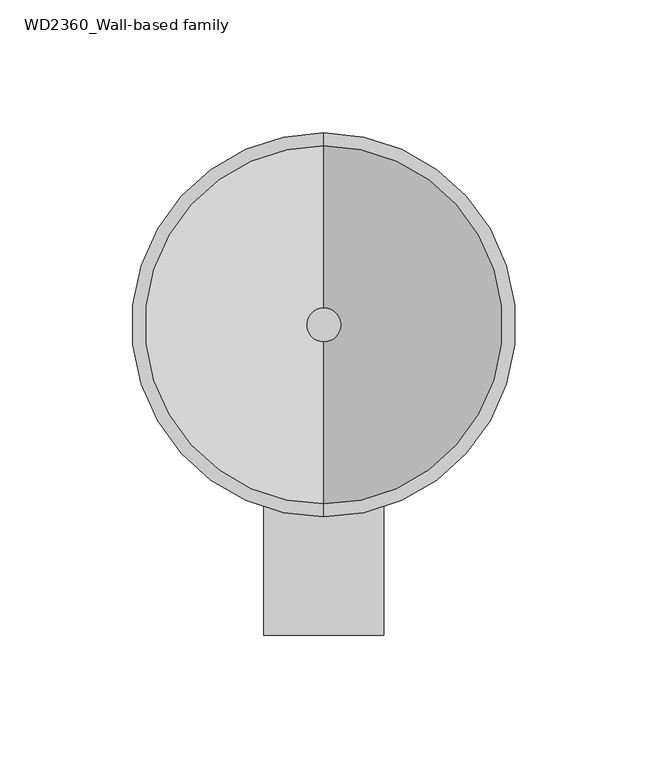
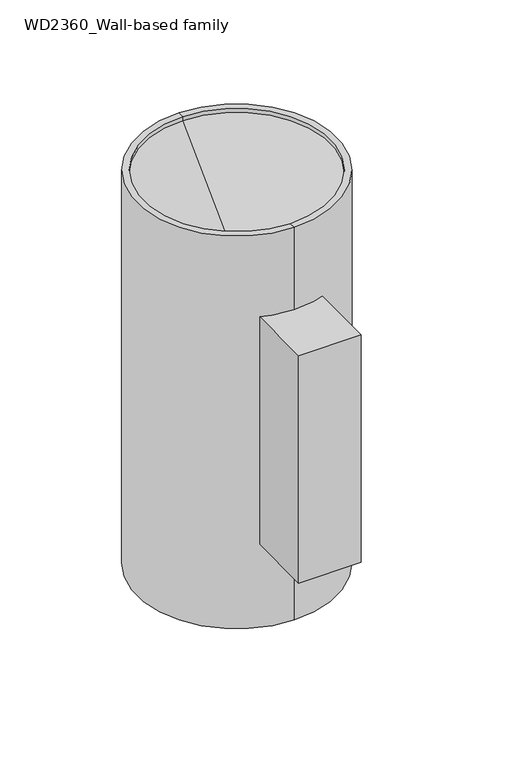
"""IFC4 building model written with IfcOpenShell, lengths in millimetres: light fixture geometry."""

from ifc_helpers import new_model, si_unit, point, frame, frame_2d, origin, origin_with_axes, place, context, project, spatial, polyline, circle_curve, trimmed, segment, composite_curve, outline, extrude, source, transform, mapped, element, save
from ifc_brep_helpers import plane_surface, cylinder_surface, revolved_surface, advanced_brep


def wd2360_wall_based_family_640fc546(model_context):
    return source(origin(), model_context, "Body", "SolidModel", [
        advanced_brep(
        [(125.0, 211.93125, 236.9386318), (125.0, 224.63125, 236.9386318), (125.0, 218.28125, 236.9386318), (125.0, 218.28125, 236.1028185), (125.0, 225.0700223, 236.1028185), (125.0, 211.4924777, 236.1028185), (125.0, 285.6831509, 295.4250706), (125.0, 150.8793491, 295.4250706), (125.0, 285.6831509, 297.0353933), (125.0, 150.8793491, 297.0353933)],
        [
            (0, 1, circle_curve(frame((125.0, 218.28125, 236.9386318), z_axis=(0.0, 0.0, 1.0), x_axis=(0.0, 1.0, 0.0)), 6.35)),
            (1, 2),
            (2, 0),
            (1, 0, circle_curve(frame((125.0, 218.28125, 236.9386318), z_axis=(0.0, 0.0, 1.0), x_axis=(0.0, 1.0, 0.0)), 6.35)),
            (3, 4),
            (4, 5, circle_curve(frame((125.0, 218.28125, 236.1028185), z_axis=(0.0, 0.0, -1.0), x_axis=(0.0, 1.0, 0.0)), 6.7887723)),
            (5, 3),
            (5, 4, circle_curve(frame((125.0, 218.28125, 236.1028185), z_axis=(0.0, 0.0, -1.0), x_axis=(0.0, 1.0, 0.0)), 6.7887723)),
            (4, 6),
            (6, 7, circle_curve(frame((125.0, 218.28125, 295.4250706), z_axis=(0.0, 0.0, -1.0), x_axis=(0.0, 1.0, 0.0)), 67.4019009)),
            (7, 5),
            (7, 6, circle_curve(frame((125.0, 218.28125, 295.4250706), z_axis=(0.0, 0.0, -1.0), x_axis=(0.0, 1.0, 0.0)), 67.4019009)),
            (6, 8),
            (8, 9, circle_curve(frame((125.0, 218.28125, 297.0353933), z_axis=(0.0, 0.0, -1.0), x_axis=(0.0, 1.0, 0.0)), 67.4019009)),
            (9, 7),
            (9, 8, circle_curve(frame((125.0, 218.28125, 297.0353933), z_axis=(0.0, 0.0, -1.0), x_axis=(0.0, 1.0, 0.0)), 67.4019009)),
            (8, 1),
            (0, 9),
        ],
        [
            plane_surface(frame((125.0, 218.28125, 236.9386318), z_axis=(0.0, 0.0, 1.0), x_axis=(0.0, 1.0, 0.0))),
            plane_surface(frame((125.0, 218.28125, 236.1028185), z_axis=(0.0, 0.0, -1.0), x_axis=(0.0, 1.0, 0.0))),
            revolved_surface(polyline([(125.0, 285.6831509, 295.4250706), (125.0, 225.0700223, 236.1028185)]), (125.0, 218.28125, 167.4954411), (0.0, 0.0, -1.0)),
            cylinder_surface(frame((125.0, 218.28125, 167.4954411), z_axis=(0.0, 0.0, -1.0), x_axis=(0.0, 1.0, 0.0)), 67.4019009),
            revolved_surface(polyline([(125.0, 224.63125, 236.9386318), (125.0, 285.6831509, 297.0353933)]), (125.0, 218.28125, 167.4954411), (0.0, 0.0, -1.0)),
        ],
        [
            (0, [[1, 2, 3]]),
            (0, [[4, -3, -2]]),
            (1, [[5, 6, 7]]),
            (1, [[-7, 8, -5]]),
            (2, [[-6, 9, 10, 11]]),
            (2, [[-8, -11, 12, -9]]),
            (3, [[-10, 13, 14, 15]]),
            (3, [[-12, -15, 16, -13]]),
            (4, [[-14, 17, -1, 18]]),
            (4, [[-16, -18, -4, -17]]),
        ],
    ),
        extrude(outline(composite_curve([segment(trimmed(circle_curve(frame_2d((125.0, 218.28125)), 6.35), [point((125.0, 211.93125))], [point((125.0, 224.63125))], False, "CARTESIAN"), True, "CONTINUOUS"), segment(trimmed(circle_curve(frame_2d((125.0, 218.28125)), 6.35), [point((125.0, 224.63125))], [point((125.0, 211.93125))], False, "CARTESIAN"), True, "CONTINUOUS")], self_intersect=False)), frame((0.0, 0.0, 236.9386318), z_axis=(0.0, 0.0, 1.0), x_axis=(1.0, 0.0, 0.0)), (0.0, 0.0, 1.0), 9.6578657),
        advanced_brep(
        [(125.0, 218.28125, 63.0988682), (125.0, 224.63125, 63.0988682), (125.0, 211.93125, 63.0988682), (125.0, 211.4924777, 63.9346815), (125.0, 225.0700223, 63.9346815), (125.0, 218.28125, 63.9346815), (125.0, 150.8793491, 4.6124294), (125.0, 285.6831509, 4.6124294), (125.0, 150.8793491, 3.0021067), (125.0, 285.6831509, 3.0021067)],
        [
            (0, 1),
            (1, 2, circle_curve(frame((125.0, 218.28125, 63.0988682), z_axis=(0.0, 0.0, -1.0), x_axis=(0.0, 1.0, 0.0)), 6.35)),
            (2, 0),
            (2, 1, circle_curve(frame((125.0, 218.28125, 63.0988682), z_axis=(0.0, 0.0, -1.0), x_axis=(0.0, 1.0, 0.0)), 6.35)),
            (3, 4, circle_curve(frame((125.0, 218.28125, 63.9346815), z_axis=(0.0, 0.0, 1.0), x_axis=(0.0, 1.0, 0.0)), 6.7887723)),
            (4, 5),
            (5, 3),
            (4, 3, circle_curve(frame((125.0, 218.28125, 63.9346815), z_axis=(0.0, 0.0, 1.0), x_axis=(0.0, 1.0, 0.0)), 6.7887723)),
            (6, 7, circle_curve(frame((125.0, 218.28125, 4.6124294), z_axis=(0.0, 0.0, 1.0), x_axis=(0.0, 1.0, 0.0)), 67.4019009)),
            (7, 4),
            (3, 6),
            (7, 6, circle_curve(frame((125.0, 218.28125, 4.6124294), z_axis=(0.0, 0.0, 1.0), x_axis=(0.0, 1.0, 0.0)), 67.4019009)),
            (8, 9, circle_curve(frame((125.0, 218.28125, 3.0021067), z_axis=(0.0, 0.0, 1.0), x_axis=(0.0, 1.0, 0.0)), 67.4019009)),
            (9, 7),
            (6, 8),
            (9, 8, circle_curve(frame((125.0, 218.28125, 3.0021067), z_axis=(0.0, 0.0, 1.0), x_axis=(0.0, 1.0, 0.0)), 67.4019009)),
            (1, 9),
            (8, 2),
        ],
        [
            plane_surface(frame((125.0, 218.28125, 63.0988682), z_axis=(0.0, 0.0, -1.0), x_axis=(0.0, 1.0, 0.0))),
            plane_surface(frame((125.0, 218.28125, 63.9346815), z_axis=(0.0, 0.0, 1.0), x_axis=(0.0, 1.0, 0.0))),
            revolved_surface(polyline([(125.0, 225.0700223, 63.9346815), (125.0, 285.6831509, 4.6124294)]), (125.0, 218.28125, 132.5420589), (0.0, 0.0, -1.0)),
            cylinder_surface(frame((125.0, 218.28125, 132.5420589), z_axis=(0.0, 0.0, -1.0), x_axis=(0.0, 1.0, 0.0)), 67.4019009),
            revolved_surface(polyline([(125.0, 285.6831509, 3.0021067), (125.0, 224.63125, 63.0988682)]), (125.0, 218.28125, 132.5420589), (0.0, 0.0, -1.0)),
        ],
        [
            (0, [[1, 2, 3]]),
            (0, [[-3, 4, -1]]),
            (1, [[5, 6, 7]]),
            (1, [[8, -7, -6]]),
            (2, [[9, 10, -5, 11]]),
            (2, [[12, -11, -8, -10]]),
            (3, [[13, 14, -9, 15]]),
            (3, [[16, -15, -12, -14]]),
            (4, [[-2, 17, -13, 18]]),
            (4, [[-4, -18, -16, -17]]),
        ],
    ),
        extrude(outline(composite_curve([segment(trimmed(circle_curve(frame_2d((125.0, 218.28125)), 6.35), [point((131.35, 218.28125))], [point((118.65, 218.28125))], False, "CARTESIAN"), True, "CONTINUOUS"), segment(trimmed(circle_curve(frame_2d((125.0, 218.28125)), 6.35), [point((118.65, 218.28125))], [point((131.35, 218.28125))], False, "CARTESIAN"), True, "CONTINUOUS")], self_intersect=False)), frame((0.0, 0.0, 53.4410025), z_axis=(0.0, 0.0, 1.0), x_axis=(1.0, 0.0, 0.0)), (0.0, 0.0, 1.0), 9.6578657),
        extrude(outline(composite_curve([segment(trimmed(circle_curve(frame_2d((125.0, 218.28125)), 40.3958045), [point((165.3958045, 218.28125))], [point((84.6041955, 218.28125))], False, "CARTESIAN"), True, "CONTINUOUS"), segment(trimmed(circle_curve(frame_2d((125.0, 218.28125)), 40.3958045), [point((84.6041955, 218.28125))], [point((165.3958045, 218.28125))], False, "CARTESIAN"), True, "CONTINUOUS")], self_intersect=False)), origin_with_axes(), (0.0, 0.0, 1.0), 3.0021067),
        extrude(outline(composite_curve([segment(polyline([(102.4035428, 101.6), (102.4035428, 152.0997194)]), True, "CONTINUOUS"), segment(trimmed(circle_curve(frame_2d((125.0, 218.28125)), 69.9327882), [point((102.4035428, 152.0997194))], [point((147.5964572, 152.0997194))], True, "CARTESIAN"), True, "CONTINUOUS"), segment(polyline([(147.5964572, 152.0997194), (147.5964572, 101.6), (102.4035428, 101.6)]), True, "CONTINUOUS")], self_intersect=False)), frame((0.0, 0.0, 63.0988682), z_axis=(0.0, 0.0, 1.0), x_axis=(1.0, 0.0, 0.0)), (0.0, 0.0, 1.0), 173.8397637),
        advanced_brep(
        [(125.0, 150.8793491, 128.0907374), (125.0, 285.6831509, 128.0907374), (125.0, 285.6831509, 0.0), (125.0, 150.8793491, 0.0), (125.0, 218.28125, 128.0907374), (125.0, 146.05, 0.0), (125.0, 290.5125, 0.0), (125.0, 290.5125, 300.0375), (125.0, 146.05, 300.0375), (125.0, 150.8793491, 171.9467626), (125.0, 285.6831509, 171.9467626), (125.0, 218.28125, 171.9467626), (125.0, 150.8793491, 300.0375), (125.0, 285.6831509, 300.0375)],
        [
            (0, 1, circle_curve(frame((125.0, 218.28125, 128.0907374), z_axis=(0.0, 0.0, 1.0), x_axis=(0.0, 1.0, 0.0)), 67.4019009)),
            (1, 2),
            (2, 3, circle_curve(frame((125.0, 218.28125, 0.0), z_axis=(0.0, 0.0, -1.0), x_axis=(0.0, 1.0, 0.0)), 67.4019009)),
            (3, 0),
            (1, 0, circle_curve(frame((125.0, 218.28125, 128.0907374), z_axis=(0.0, 0.0, 1.0), x_axis=(0.0, 1.0, 0.0)), 67.4019009)),
            (3, 2, circle_curve(frame((125.0, 218.28125, 0.0), z_axis=(0.0, 0.0, -1.0), x_axis=(0.0, 1.0, 0.0)), 67.4019009)),
            (4, 1),
            (0, 4),
            (5, 6, circle_curve(frame((125.0, 218.28125, 0.0), z_axis=(0.0, 0.0, 1.0), x_axis=(0.0, 1.0, 0.0)), 72.23125)),
            (6, 7),
            (7, 8, circle_curve(frame((125.0, 218.28125, 300.0375), z_axis=(0.0, 0.0, -1.0), x_axis=(0.0, 1.0, 0.0)), 72.23125)),
            (8, 5),
            (6, 5, circle_curve(frame((125.0, 218.28125, 0.0), z_axis=(0.0, 0.0, 1.0), x_axis=(0.0, 1.0, 0.0)), 72.23125)),
            (8, 7, circle_curve(frame((125.0, 218.28125, 300.0375), z_axis=(0.0, 0.0, -1.0), x_axis=(0.0, 1.0, 0.0)), 72.23125)),
            (2, 6),
            (5, 3),
            (9, 10, circle_curve(frame((125.0, 218.28125, 171.9467626), z_axis=(0.0, 0.0, 1.0), x_axis=(0.0, 1.0, 0.0)), 67.4019009)),
            (10, 11),
            (11, 9),
            (10, 9, circle_curve(frame((125.0, 218.28125, 171.9467626), z_axis=(0.0, 0.0, 1.0), x_axis=(0.0, 1.0, 0.0)), 67.4019009)),
            (12, 13, circle_curve(frame((125.0, 218.28125, 300.0375), z_axis=(0.0, 0.0, 1.0), x_axis=(0.0, 1.0, 0.0)), 67.4019009)),
            (13, 10),
            (9, 12),
            (13, 12, circle_curve(frame((125.0, 218.28125, 300.0375), z_axis=(0.0, 0.0, 1.0), x_axis=(0.0, 1.0, 0.0)), 67.4019009)),
            (7, 13),
            (12, 8),
        ],
        [
            revolved_surface(polyline([(125.0, 285.6831509, 0.0), (125.0, 285.6831509, 128.0907374)]), (125.0, 218.28125, 171.9467626), (0.0, 0.0, -1.0)),
            plane_surface(frame((125.0, 218.28125, 128.0907374), z_axis=(0.0, 0.0, -1.0), x_axis=(0.0, 1.0, 0.0))),
            cylinder_surface(frame((125.0, 218.28125, 171.9467626), z_axis=(0.0, 0.0, -1.0), x_axis=(0.0, 1.0, 0.0)), 72.23125),
            plane_surface(frame((125.0, 218.28125, 0.0), z_axis=(0.0, 0.0, -1.0), x_axis=(0.0, 1.0, 0.0))),
            plane_surface(frame((125.0, 218.28125, 171.9467626), z_axis=(0.0, 0.0, 1.0), x_axis=(0.0, 1.0, 0.0))),
            revolved_surface(polyline([(125.0, 285.6831509, 171.9467626), (125.0, 285.6831509, 300.0375)]), (125.0, 218.28125, 171.9467626), (0.0, 0.0, -1.0)),
            plane_surface(frame((125.0, 218.28125, 300.0375), z_axis=(0.0, 0.0, 1.0), x_axis=(0.0, 1.0, 0.0))),
        ],
        [
            (0, [[1, 2, 3, 4]]),
            (0, [[5, -4, 6, -2]]),
            (1, [[7, -1, 8]]),
            (1, [[-8, -5, -7]]),
            (2, [[9, 10, 11, 12]]),
            (2, [[13, -12, 14, -10]]),
            (3, [[-3, 15, -9, 16]]),
            (3, [[-6, -16, -13, -15]]),
            (4, [[17, 18, 19]]),
            (4, [[20, -19, -18]]),
            (5, [[21, 22, -17, 23]]),
            (5, [[24, -23, -20, -22]]),
            (6, [[-11, 25, -21, 26]]),
            (6, [[-14, -26, -24, -25]]),
        ],
    ),
    ])


if __name__ == "__main__":
    model = new_model("IFC4")
    model_context = context("Model", 3, world=origin())
    ifc_project = project(units=[si_unit("LENGTHUNIT", "METRE", prefix="MILLI")], contexts=[model_context])
    site = spatial("IfcSite", under=ifc_project)
    building = spatial("IfcBuilding", under=site)
    placement = place(None, origin())
    wd2360_wall_based_family_shape = wd2360_wall_based_family_640fc546(model_context)
    element("IfcLightFixture", 1, ObjectType="WD2360_Wall-based family : WD2360 6\" ROUND 2 DIRECTION WALL MOUNT (IP65) 2 x 1000lm_WD2360B-B02-T40", at=placement, inside=building, context=model_context, shape_type="MappedRepresentation", body=[
        mapped(wd2360_wall_based_family_shape, transform((0.0, 0.0, 0.0), x_axis=(1.0, 0.0, 0.0), y_axis=(0.0, 1.0, 0.0), z_axis=(0.0, 0.0, 1.0))),
    ])
    save(model, "model.ifc")
